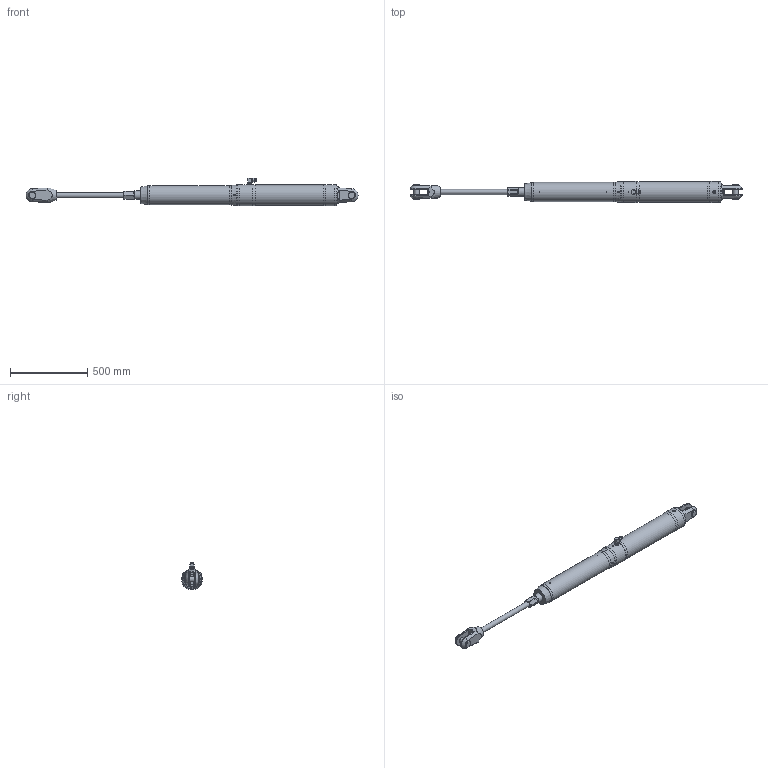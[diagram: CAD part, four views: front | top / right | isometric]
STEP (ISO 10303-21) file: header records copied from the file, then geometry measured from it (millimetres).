
FILE_DESCRIPTION(/* description */ (''),/* implementation_level */ '2;1');
FILE_NAME(/* name */ 'Q:\AA BRAND HYDRAULICS\HYDRAULICS FAMILY DIRECTORY\HYDRAULICS\CYLINDERS\MECHANICAL LOCK RAMS\ALUMINIUM - STAINLESS SINGLE ACTING (-0012 To -0150)\MSA-0091-S0425-NP-71\MSA-0091-S0425-NP-71 (Open).stp',/* time_stamp */ '2018-04-25T17:05:49+01:00',/* author */ ('Lorena'),/* organization */ (''),/* preprocessor_version */ 'ST-DEVELOPER v17',/* originating_system */ 'Autodesk Inventor 2018',/* authorisation */ '');
FILE_SCHEMA (('AUTOMOTIVE_DESIGN { 1 0 10303 214 3 1 1 }'));
Length unit declared in the file: millimetre
Products named in the file (1): MSA-0091-S0425-NP-71 (Open)
Bounding box: 2155.08 x 136.4 x 178.3 mm (x, y, z)
Volume: 19055275.5 mm3; surface area: 762638.7 mm2
Topology: 2 solids, 4 shells, 495 faces, 1298 edges, 848 vertices
Faces by surface type: plane 281, cone 123, cylinder 77, torus 6, sphere 4, bspline 4
Full cylindrical faces by diameter (mm): 4 x1, 4.2 x4, 5 x2, 7 x1, 8 x4, 9 x1, 9.9 x1, 10 x2, 11.1 x1, 18.9 x1, 19 x3, 19.11 x1, 19.9 x1, 20 x3, 20.9 x2, 22 x2, 27.8 x3, 30 x1, 34.25 x1, 34.93 x2, 43.663 x2, 55 x2, 56 x2, 59 x1, 125 x1, 133.4 x1, 136.4 x4
Entity records: 16993 total; most frequent: CARTESIAN_POINT 4401, ORIENTED_EDGE 2580, DIRECTION 2514, EDGE_CURVE 1290, AXIS2_PLACEMENT_3D 966, VERTEX_POINT 849, LINE 582, VECTOR 582
